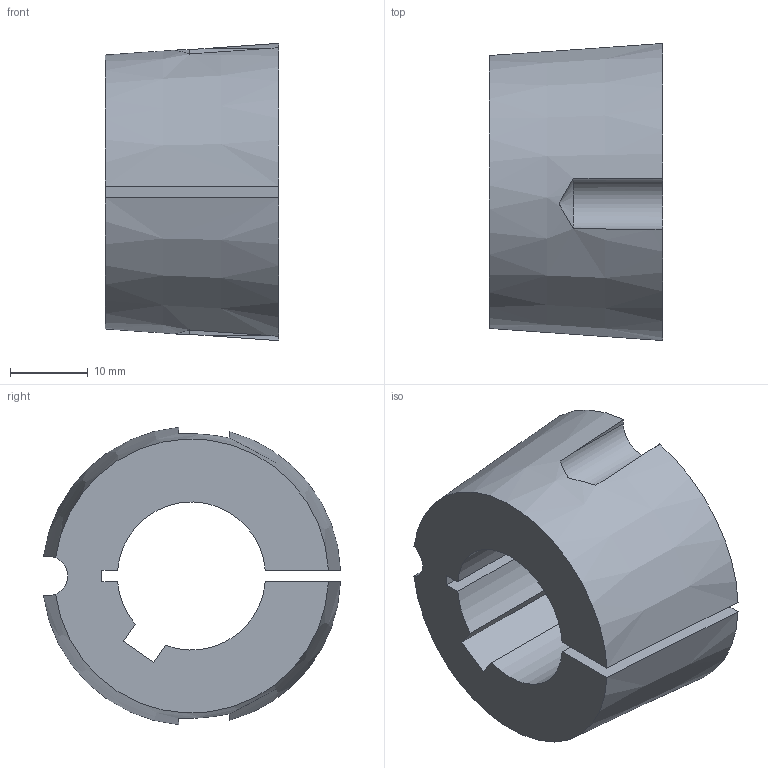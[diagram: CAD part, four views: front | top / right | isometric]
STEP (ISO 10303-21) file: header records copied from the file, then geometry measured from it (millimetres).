
FILE_DESCRIPTION( ( '' ), '1' );
FILE_NAME( 'C:/Users/StangenbergN/Desktop/06.02.2019_steps/6225021905.stp', '2019-02-06T19:54:19', ( '' ), ( '' ), ' ', ' ', ' ' );
FILE_SCHEMA( ( 'CONFIG_CONTROL_DESIGN' ) );
Length unit declared in the file: millimetre
Products named in the file (1): 1
Bounding box: 22.3 x 38.22 x 38.26 mm (x, y, z)
Volume: 16145.5 mm3; surface area: 6073.7 mm2
Topology: 1 solids, 1 shells, 26 faces, 72 edges, 48 vertices
Faces by surface type: cylinder 12, plane 10, cone 4
Entity records: 968 total; most frequent: CARTESIAN_POINT 259, ORIENTED_EDGE 144, DIRECTION 138, EDGE_CURVE 72, AXIS2_PLACEMENT_3D 53, VERTEX_POINT 48, LINE 32, VECTOR 32
